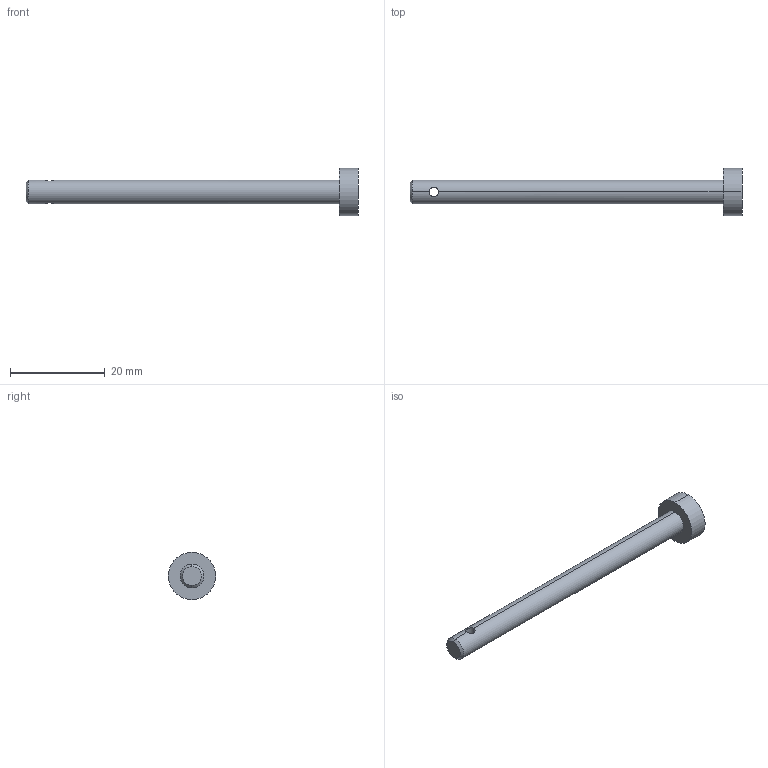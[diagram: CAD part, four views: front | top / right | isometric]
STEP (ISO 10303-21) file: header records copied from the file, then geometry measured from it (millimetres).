
FILE_DESCRIPTION (( 'STEP AP214' ), '1' );
FILE_NAME ('GZ46.04_V1销轴.STEP', '2021-06-24T09:12:34', ( '微软中国' ), ( 'Microsoft' ), 'SwSTEP 2.0', 'SolidWorks 2017', '' );
FILE_SCHEMA (( 'AUTOMOTIVE_DESIGN' ));
Length unit declared in the file: millimetre
Products named in the file (1): GZ46.04_V1种粣
Bounding box: 70 x 10 x 10 mm (x, y, z)
Volume: 1592.8 mm3; surface area: 1338.2 mm2
Topology: 1 solids, 1 shells, 11 faces, 24 edges, 14 vertices
Faces by surface type: cylinder 6, plane 3, cone 2
Entity records: 398 total; most frequent: CARTESIAN_POINT 118, DIRECTION 54, ORIENTED_EDGE 48, EDGE_CURVE 24, AXIS2_PLACEMENT_3D 22, VERTEX_POINT 14, EDGE_LOOP 12, FACE_OUTER_BOUND 11
